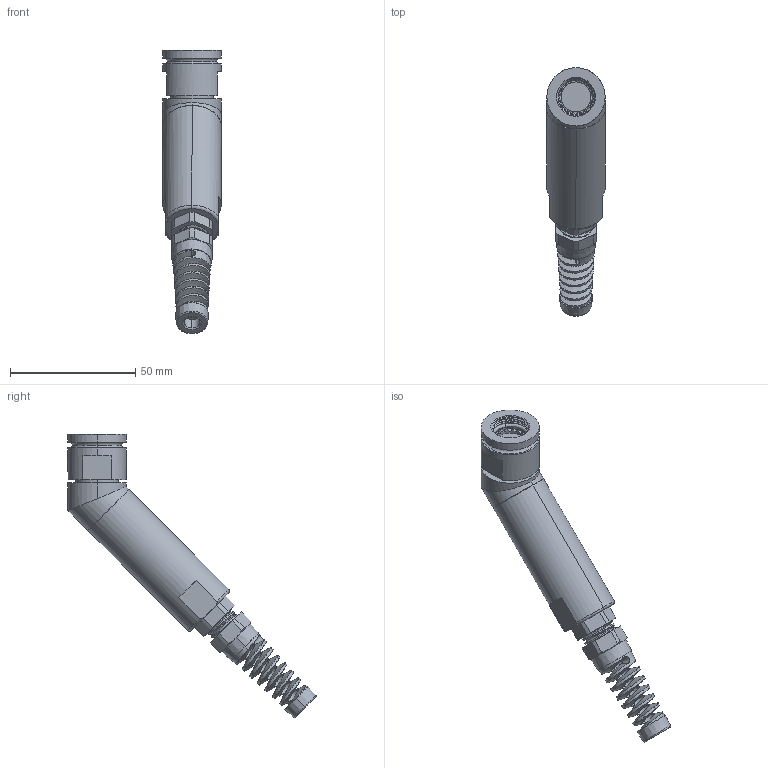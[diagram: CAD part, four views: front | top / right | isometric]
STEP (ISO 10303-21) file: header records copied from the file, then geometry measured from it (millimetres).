
FILE_DESCRIPTION (( 'STEP AP214' ), '1' );
FILE_NAME ('Q38SHELL-45X-11-XXXX-GB.STEP', '2025-09-25T20:44:26', ( '' ), ( '' ), 'SwSTEP 2.0', 'SolidWorks 2024', '' );
FILE_SCHEMA (( 'AUTOMOTIVE_DESIGN' ));
Length unit declared in the file: millimetre
Products named in the file (1): Q38SHELL-45X-11-XXXX-GB
Bounding box: 23.24 x 98.97 x 113.07 mm (x, y, z)
Volume: 41180 mm3; surface area: 13476.4 mm2
Topology: 2 solids, 2 shells, 237 faces, 753 edges, 535 vertices
Faces by surface type: plane 105, cylinder 74, cone 38, torus 13, bspline 7
Entity records: 12159 total; most frequent: CARTESIAN_POINT 5925, ORIENTED_EDGE 1506, DIRECTION 1097, EDGE_CURVE 753, VERTEX_POINT 535, AXIS2_PLACEMENT_3D 449, EDGE_LOOP 256, B_SPLINE_CURVE_WITH_KNOTS 255
